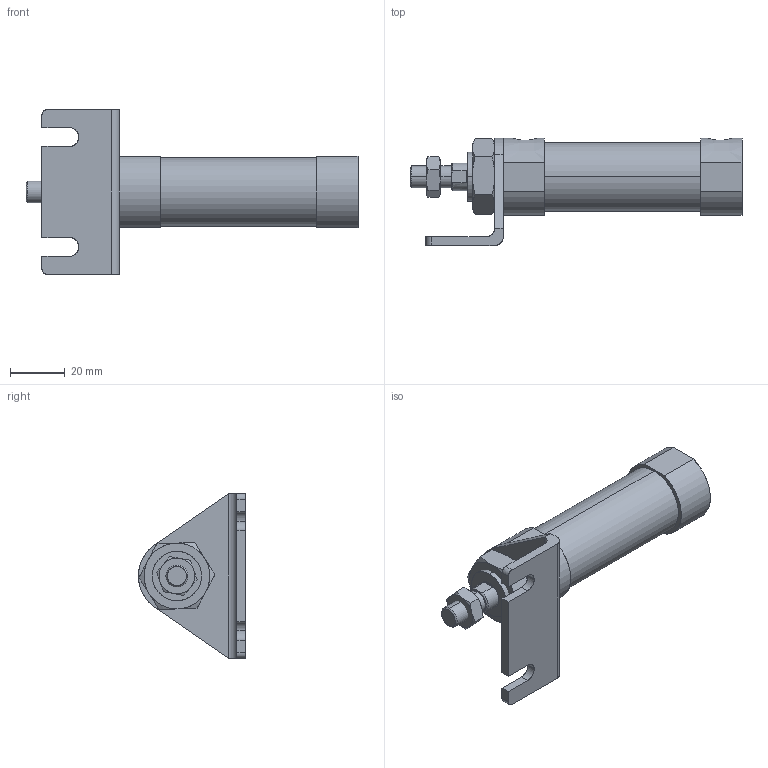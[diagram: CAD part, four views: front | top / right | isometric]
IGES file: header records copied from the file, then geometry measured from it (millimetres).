
Start section: SolidWorks IGES file using analytic representation for surfaces
Global section: file name: C:\Users\Toshiba\Desktop\JGND2-20-25-L.IGS; native system: SolidWorks 2014; preprocessor: SolidWorks 2014; author: Toshiba; date: 160804.102129; units: millimetre
Bounding box: 121 x 39 x 60 mm (x, y, z)
Surface area: 18798.8 mm2 (no closed solid volume)
Topology: 0 solids, 0 shells, 111 faces, 1814 edges, 1814 vertices
Faces by surface type: bspline 73, revolution 38
